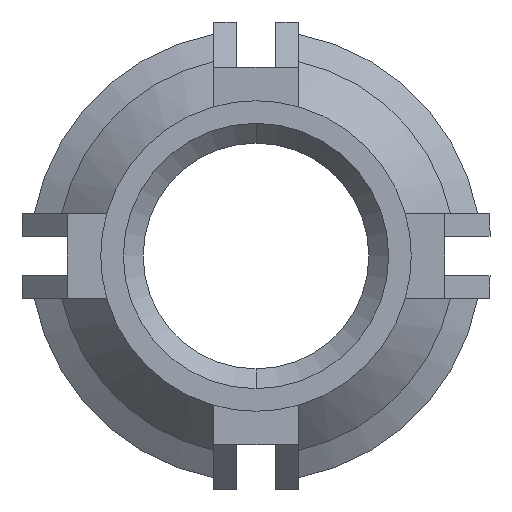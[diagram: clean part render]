
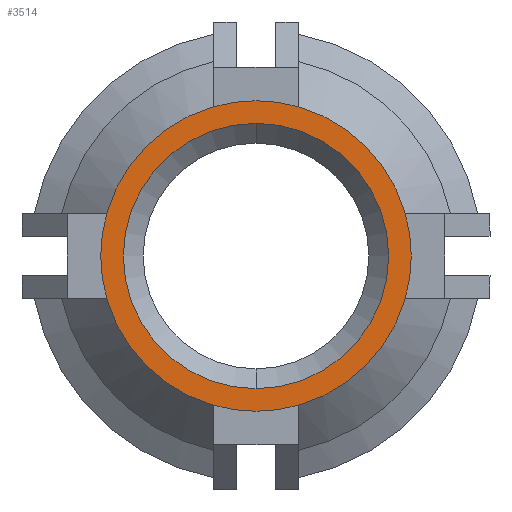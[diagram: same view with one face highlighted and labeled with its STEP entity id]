
A CAD part, front view. The second image highlights one B-rep face of the part: STEP entity #3514.
In plain terms, the highlighted planar face has unit normal (0, -1, 0).
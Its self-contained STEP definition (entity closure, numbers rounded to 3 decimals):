
#25 = DIRECTION ( 'NONE',  ( 0., 0., 1. ) ) ;
#111 = ORIENTED_EDGE ( 'NONE', *, *, #2512, .T. ) ;
#115 = DIRECTION ( 'NONE',  ( 0., -1., 0. ) ) ;
#136 = DIRECTION ( 'NONE',  ( 0., -1., 0. ) ) ;
#143 = AXIS2_PLACEMENT_3D ( 'NONE', #2073, #1395, #2349 ) ;
#220 = EDGE_CURVE ( 'NONE', #3411, #3400, #3254, .T. ) ;
#232 = EDGE_LOOP ( 'NONE', ( #1939, #3298 ) ) ;
#314 = CARTESIAN_POINT ( 'NONE',  ( -0.75, -8., -2.646 ) ) ;
#427 = ORIENTED_EDGE ( 'NONE', *, *, #3766, .T. ) ;
#462 = EDGE_CURVE ( 'NONE', #3464, #1691, #1628, .T. ) ;
#536 = CARTESIAN_POINT ( 'NONE',  ( 0.75, -8., 2.646 ) ) ;
#556 = CARTESIAN_POINT ( 'NONE',  ( 0., -8., 0. ) ) ;
#562 = CIRCLE ( 'NONE', #2793, 2.75 ) ;
#587 = CARTESIAN_POINT ( 'NONE',  ( 0.75, -8., -2.646 ) ) ;
#713 = CARTESIAN_POINT ( 'NONE',  ( 0., -8., 0. ) ) ;
#833 = VERTEX_POINT ( 'NONE', #2633 ) ;
#846 = CIRCLE ( 'NONE', #143, 2.35 ) ;
#948 = CIRCLE ( 'NONE', #3548, 2.75 ) ;
#987 = DIRECTION ( 'NONE',  ( 0., -1., 0. ) ) ;
#1040 = DIRECTION ( 'NONE',  ( 0., -1., 0. ) ) ;
#1055 = DIRECTION ( 'NONE',  ( 0., 0., 1. ) ) ;
#1124 = CARTESIAN_POINT ( 'NONE',  ( 2.646, -8., -0.75 ) ) ;
#1219 = VERTEX_POINT ( 'NONE', #2509 ) ;
#1242 = PLANE ( 'NONE',  #1886 ) ;
#1246 = CARTESIAN_POINT ( 'NONE',  ( 0., -8., -2.35 ) ) ;
#1275 = ORIENTED_EDGE ( 'NONE', *, *, #220, .T. ) ;
#1299 = CARTESIAN_POINT ( 'NONE',  ( 0., -8., 2.35 ) ) ;
#1323 = ORIENTED_EDGE ( 'NONE', *, *, #2491, .T. ) ;
#1336 = DIRECTION ( 'NONE',  ( 0., 1., 0. ) ) ;
#1395 = DIRECTION ( 'NONE',  ( 0., 1., 0. ) ) ;
#1419 = CARTESIAN_POINT ( 'NONE',  ( 0., -8., 0. ) ) ;
#1532 = CARTESIAN_POINT ( 'NONE',  ( 2.646, -8., 0.75 ) ) ;
#1540 = AXIS2_PLACEMENT_3D ( 'NONE', #1419, #115, #1755 ) ;
#1605 = FACE_OUTER_BOUND ( 'NONE', #3202, .T. ) ;
#1608 = DIRECTION ( 'NONE',  ( 0., 0., 1. ) ) ;
#1628 = CIRCLE ( 'NONE', #1540, 2.75 ) ;
#1652 = DIRECTION ( 'NONE',  ( 0., 0., 1. ) ) ;
#1662 = AXIS2_PLACEMENT_3D ( 'NONE', #1732, #136, #1747 ) ;
#1663 = CIRCLE ( 'NONE', #2353, 2.75 ) ;
#1691 = VERTEX_POINT ( 'NONE', #587 ) ;
#1732 = CARTESIAN_POINT ( 'NONE',  ( 0., -8., 0. ) ) ;
#1739 = DIRECTION ( 'NONE',  ( 0., 0., 1. ) ) ;
#1747 = DIRECTION ( 'NONE',  ( 0., 0., 1. ) ) ;
#1755 = DIRECTION ( 'NONE',  ( -1., 0., 0. ) ) ;
#1818 = FACE_BOUND ( 'NONE', #232, .T. ) ;
#1886 = AXIS2_PLACEMENT_3D ( 'NONE', #3843, #1336, #3279 ) ;
#1939 = ORIENTED_EDGE ( 'NONE', *, *, #3048, .T. ) ;
#1948 = DIRECTION ( 'NONE',  ( 0., -1., 0. ) ) ;
#2051 = DIRECTION ( 'NONE',  ( 0., 1., 0. ) ) ;
#2073 = CARTESIAN_POINT ( 'NONE',  ( 0., -8., 0. ) ) ;
#2226 = AXIS2_PLACEMENT_3D ( 'NONE', #3039, #3679, #2983 ) ;
#2349 = DIRECTION ( 'NONE',  ( 0., 0., 1. ) ) ;
#2353 = AXIS2_PLACEMENT_3D ( 'NONE', #3923, #2904, #1608 ) ;
#2419 = ORIENTED_EDGE ( 'NONE', *, *, #462, .T. ) ;
#2435 = VERTEX_POINT ( 'NONE', #4155 ) ;
#2491 = EDGE_CURVE ( 'NONE', #1691, #3184, #1663, .T. ) ;
#2509 = CARTESIAN_POINT ( 'NONE',  ( -0.75, -8., 2.646 ) ) ;
#2512 = EDGE_CURVE ( 'NONE', #1219, #2435, #562, .T. ) ;
#2553 = CARTESIAN_POINT ( 'NONE',  ( 0., -8., 0. ) ) ;
#2633 = CARTESIAN_POINT ( 'NONE',  ( -2.646, -8., -0.75 ) ) ;
#2793 = AXIS2_PLACEMENT_3D ( 'NONE', #3213, #987, #1652 ) ;
#2904 = DIRECTION ( 'NONE',  ( 0., -1., 0. ) ) ;
#2924 = EDGE_CURVE ( 'NONE', #3400, #1219, #3850, .T. ) ;
#2952 = VERTEX_POINT ( 'NONE', #1246 ) ;
#2983 = DIRECTION ( 'NONE',  ( 0., 0., -1. ) ) ;
#3039 = CARTESIAN_POINT ( 'NONE',  ( 0., -8., 0. ) ) ;
#3048 = EDGE_CURVE ( 'NONE', #2952, #3621, #3602, .T. ) ;
#3073 = CIRCLE ( 'NONE', #2226, 2.75 ) ;
#3116 = ORIENTED_EDGE ( 'NONE', *, *, #2924, .T. ) ;
#3184 = VERTEX_POINT ( 'NONE', #1124 ) ;
#3202 = EDGE_LOOP ( 'NONE', ( #3888, #4167, #2419, #1323, #427, #1275, #3116, #111 ) ) ;
#3213 = CARTESIAN_POINT ( 'NONE',  ( 0., -8., 0. ) ) ;
#3254 = CIRCLE ( 'NONE', #3666, 2.75 ) ;
#3279 = DIRECTION ( 'NONE',  ( 0., 0., 1. ) ) ;
#3298 = ORIENTED_EDGE ( 'NONE', *, *, #3686, .T. ) ;
#3400 = VERTEX_POINT ( 'NONE', #536 ) ;
#3411 = VERTEX_POINT ( 'NONE', #1532 ) ;
#3464 = VERTEX_POINT ( 'NONE', #314 ) ;
#3467 = AXIS2_PLACEMENT_3D ( 'NONE', #3651, #2051, #1739 ) ;
#3514 = ADVANCED_FACE ( 'NONE', ( #1818, #1605 ), #1242, .F. ) ;
#3548 = AXIS2_PLACEMENT_3D ( 'NONE', #713, #1040, #1055 ) ;
#3551 = DIRECTION ( 'NONE',  ( 1., 0., 0. ) ) ;
#3602 = CIRCLE ( 'NONE', #3467, 2.35 ) ;
#3621 = VERTEX_POINT ( 'NONE', #1299 ) ;
#3637 = EDGE_CURVE ( 'NONE', #2435, #833, #3646, .T. ) ;
#3646 = CIRCLE ( 'NONE', #1662, 2.75 ) ;
#3651 = CARTESIAN_POINT ( 'NONE',  ( 0., -8., 0. ) ) ;
#3666 = AXIS2_PLACEMENT_3D ( 'NONE', #2553, #1948, #25 ) ;
#3679 = DIRECTION ( 'NONE',  ( 0., -1., 0. ) ) ;
#3686 = EDGE_CURVE ( 'NONE', #3621, #2952, #846, .T. ) ;
#3766 = EDGE_CURVE ( 'NONE', #3184, #3411, #3073, .T. ) ;
#3843 = CARTESIAN_POINT ( 'NONE',  ( 0., -8., 0. ) ) ;
#3850 = CIRCLE ( 'NONE', #4125, 2.75 ) ;
#3865 = DIRECTION ( 'NONE',  ( 0., -1., 0. ) ) ;
#3888 = ORIENTED_EDGE ( 'NONE', *, *, #3637, .T. ) ;
#3923 = CARTESIAN_POINT ( 'NONE',  ( 0., -8., 0. ) ) ;
#4125 = AXIS2_PLACEMENT_3D ( 'NONE', #556, #3865, #3551 ) ;
#4155 = CARTESIAN_POINT ( 'NONE',  ( -2.646, -8., 0.75 ) ) ;
#4167 = ORIENTED_EDGE ( 'NONE', *, *, #4176, .T. ) ;
#4176 = EDGE_CURVE ( 'NONE', #833, #3464, #948, .T. ) ;
